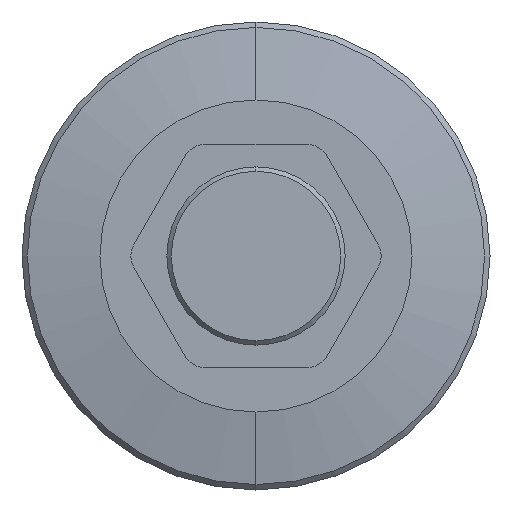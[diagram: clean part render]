
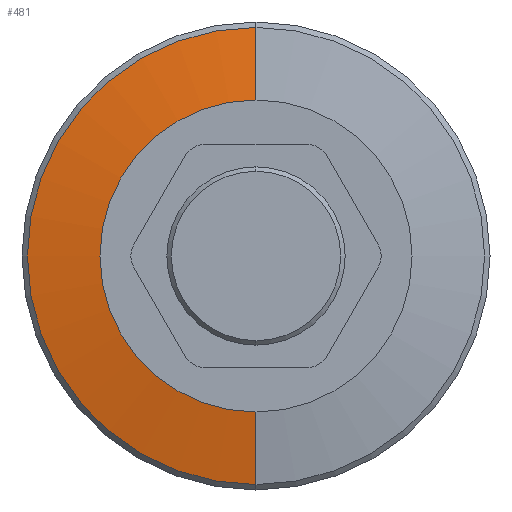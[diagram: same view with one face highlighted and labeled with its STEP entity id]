
A CAD part, left-side view. The second image highlights one B-rep face of the part: STEP entity #481.
In plain terms, the highlighted conical face has half-angle 80 degrees and reference radius 10.5 mm.
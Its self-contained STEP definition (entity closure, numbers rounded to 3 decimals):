
#16 = DIRECTION ( 'NONE',  ( 0., 0., 1. ) ) ;
#84 = CARTESIAN_POINT ( 'NONE',  ( 23., 0., 0. ) ) ;
#142 = ORIENTED_EDGE ( 'NONE', *, *, #1132, .F. ) ;
#160 = CARTESIAN_POINT ( 'NONE',  ( 23., 0., -7. ) ) ;
#166 = ORIENTED_EDGE ( 'NONE', *, *, #751, .T. ) ;
#180 = DIRECTION ( 'NONE',  ( 0., 0., 1. ) ) ;
#192 = VECTOR ( 'NONE', #298, 1000. ) ;
#298 = DIRECTION ( 'NONE',  ( 0.174, 0., 0.985 ) ) ;
#324 = CARTESIAN_POINT ( 'NONE',  ( 23.574, 0., -10.257 ) ) ;
#372 = EDGE_LOOP ( 'NONE', ( #142, #166, #693, #479 ) ) ;
#409 = VERTEX_POINT ( 'NONE', #604 ) ;
#477 = CONICAL_SURFACE ( 'NONE', #610, 10.5, 1.396 ) ;
#479 = ORIENTED_EDGE ( 'NONE', *, *, #518, .F. ) ;
#481 = ADVANCED_FACE ( 'NONE', ( #1127 ), #477, .T. ) ;
#518 = EDGE_CURVE ( 'NONE', #983, #1323, #752, .T. ) ;
#604 = CARTESIAN_POINT ( 'NONE',  ( 23.574, 0., 10.257 ) ) ;
#610 = AXIS2_PLACEMENT_3D ( 'NONE', #1212, #1135, #1116 ) ;
#674 = DIRECTION ( 'NONE',  ( -1., 0., 0. ) ) ;
#693 = ORIENTED_EDGE ( 'NONE', *, *, #1350, .T. ) ;
#699 = AXIS2_PLACEMENT_3D ( 'NONE', #84, #840, #180 ) ;
#704 = DIRECTION ( 'NONE',  ( 0.174, 0., -0.985 ) ) ;
#751 = EDGE_CURVE ( 'NONE', #1003, #409, #1358, .T. ) ;
#752 = LINE ( 'NONE', #776, #1332 ) ;
#776 = CARTESIAN_POINT ( 'NONE',  ( 23.617, 0., -10.5 ) ) ;
#840 = DIRECTION ( 'NONE',  ( -1., 0., 0. ) ) ;
#894 = CIRCLE ( 'NONE', #699, 7. ) ;
#902 = AXIS2_PLACEMENT_3D ( 'NONE', #1354, #674, #16 ) ;
#983 = VERTEX_POINT ( 'NONE', #160 ) ;
#1003 = VERTEX_POINT ( 'NONE', #1289 ) ;
#1098 = CARTESIAN_POINT ( 'NONE',  ( 23.617, 0., 10.5 ) ) ;
#1116 = DIRECTION ( 'NONE',  ( 0., 0., -1. ) ) ;
#1127 = FACE_OUTER_BOUND ( 'NONE', #372, .T. ) ;
#1132 = EDGE_CURVE ( 'NONE', #1003, #983, #894, .T. ) ;
#1135 = DIRECTION ( 'NONE',  ( 1., 0., 0. ) ) ;
#1212 = CARTESIAN_POINT ( 'NONE',  ( 23.617, 0., 0. ) ) ;
#1289 = CARTESIAN_POINT ( 'NONE',  ( 23., 0., 7. ) ) ;
#1323 = VERTEX_POINT ( 'NONE', #324 ) ;
#1332 = VECTOR ( 'NONE', #704, 1000. ) ;
#1350 = EDGE_CURVE ( 'NONE', #409, #1323, #1439, .T. ) ;
#1354 = CARTESIAN_POINT ( 'NONE',  ( 23.574, 0., 0. ) ) ;
#1358 = LINE ( 'NONE', #1098, #192 ) ;
#1439 = CIRCLE ( 'NONE', #902, 10.257 ) ;
